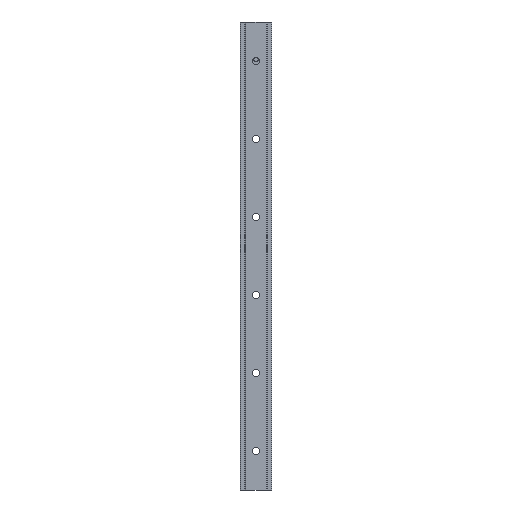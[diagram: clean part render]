
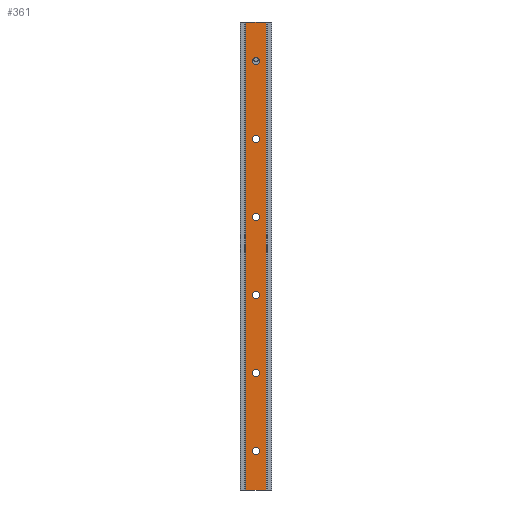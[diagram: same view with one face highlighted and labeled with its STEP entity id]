
A CAD part, front view. The second image highlights one B-rep face of the part: STEP entity #361.
In plain terms, the highlighted planar face has unit normal (0, -1, 0).
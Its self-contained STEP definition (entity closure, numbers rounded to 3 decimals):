
#2 = CARTESIAN_POINT ( 'NONE',  ( 0., 0., -222.5 ) ) ;
#115 = CARTESIAN_POINT ( 'NONE',  ( 0., 0., -127.5 ) ) ;
#171 = DIRECTION ( 'NONE',  ( 0., 0., 1. ) ) ;
#233 = ORIENTED_EDGE ( 'NONE', *, *, #469, .T. ) ;
#282 = EDGE_LOOP ( 'NONE', ( #2837, #12920 ) ) ;
#319 = DIRECTION ( 'NONE',  ( 0., 1., 0. ) ) ;
#361 = ADVANCED_FACE ( 'NONE', ( #6207, #7210, #8038, #8311, #12187, #9332, #1931 ), #11369, .T. ) ;
#452 = VERTEX_POINT ( 'NONE', #8994 ) ;
#464 = CARTESIAN_POINT ( 'NONE',  ( -6.6, 0., -300. ) ) ;
#469 = EDGE_CURVE ( 'NONE', #10451, #4219, #5871, .T. ) ;
#995 = AXIS2_PLACEMENT_3D ( 'NONE', #8893, #11899, #6720 ) ;
#1000 = CARTESIAN_POINT ( 'NONE',  ( 6.6, 0., -300. ) ) ;
#1052 = CARTESIAN_POINT ( 'NONE',  ( 0., 0., -225. ) ) ;
#1397 = CIRCLE ( 'NONE', #5950, 2.5 ) ;
#1418 = CIRCLE ( 'NONE', #3818, 2.5 ) ;
#1518 = AXIS2_PLACEMENT_3D ( 'NONE', #12615, #319, #5223 ) ;
#1831 = CARTESIAN_POINT ( 'NONE',  ( 0., 0., -175. ) ) ;
#1931 = FACE_BOUND ( 'NONE', #8433, .T. ) ;
#2015 = CARTESIAN_POINT ( 'NONE',  ( -6.6, 0., -300. ) ) ;
#2246 = ORIENTED_EDGE ( 'NONE', *, *, #5423, .T. ) ;
#2260 = CARTESIAN_POINT ( 'NONE',  ( 0., 0., -25. ) ) ;
#2290 = CIRCLE ( 'NONE', #6173, 2.5 ) ;
#2310 = CARTESIAN_POINT ( 'NONE',  ( -10.075, 0., -300. ) ) ;
#2355 = ORIENTED_EDGE ( 'NONE', *, *, #9985, .F. ) ;
#2376 = CARTESIAN_POINT ( 'NONE',  ( 0., 0., -122.5 ) ) ;
#2501 = VERTEX_POINT ( 'NONE', #8991 ) ;
#2521 = AXIS2_PLACEMENT_3D ( 'NONE', #5923, #8164, #13183 ) ;
#2576 = DIRECTION ( 'NONE',  ( 1., 0., 0. ) ) ;
#2604 = EDGE_CURVE ( 'NONE', #4219, #10451, #9145, .T. ) ;
#2650 = AXIS2_PLACEMENT_3D ( 'NONE', #10484, #5332, #11439 ) ;
#2809 = CARTESIAN_POINT ( 'NONE',  ( 0., 0., -172.5 ) ) ;
#2819 = LINE ( 'NONE', #11044, #3615 ) ;
#2837 = ORIENTED_EDGE ( 'NONE', *, *, #6537, .T. ) ;
#2997 = ORIENTED_EDGE ( 'NONE', *, *, #13402, .T. ) ;
#3021 = DIRECTION ( 'NONE',  ( 0., -1., 0. ) ) ;
#3076 = LINE ( 'NONE', #9256, #5638 ) ;
#3169 = CARTESIAN_POINT ( 'NONE',  ( 0., 0., -27.5 ) ) ;
#3185 = DIRECTION ( 'NONE',  ( 0., 0., -1. ) ) ;
#3215 = CIRCLE ( 'NONE', #9281, 2.5 ) ;
#3283 = AXIS2_PLACEMENT_3D ( 'NONE', #5203, #3021, #4947 ) ;
#3318 = VERTEX_POINT ( 'NONE', #5230 ) ;
#3452 = ORIENTED_EDGE ( 'NONE', *, *, #5673, .T. ) ;
#3615 = VECTOR ( 'NONE', #9887, 1000. ) ;
#3619 = CIRCLE ( 'NONE', #2521, 2.5 ) ;
#3710 = DIRECTION ( 'NONE',  ( 0., 0., 1. ) ) ;
#3818 = AXIS2_PLACEMENT_3D ( 'NONE', #4693, #10720, #6702 ) ;
#4219 = VERTEX_POINT ( 'NONE', #12122 ) ;
#4307 = EDGE_LOOP ( 'NONE', ( #233, #12078 ) ) ;
#4364 = EDGE_LOOP ( 'NONE', ( #2355, #10577, #5263, #10970 ) ) ;
#4576 = DIRECTION ( 'NONE',  ( 0., 1., 0. ) ) ;
#4693 = CARTESIAN_POINT ( 'NONE',  ( 0., 0., -175. ) ) ;
#4769 = CARTESIAN_POINT ( 'NONE',  ( -6.6, 0., 0. ) ) ;
#4943 = CARTESIAN_POINT ( 'NONE',  ( 0., 0., -75. ) ) ;
#4947 = DIRECTION ( 'NONE',  ( 0., 0., -1. ) ) ;
#4989 = VERTEX_POINT ( 'NONE', #2 ) ;
#5075 = EDGE_CURVE ( 'NONE', #13128, #10707, #1397, .T. ) ;
#5203 = CARTESIAN_POINT ( 'NONE',  ( -10.075, 0., -300. ) ) ;
#5223 = DIRECTION ( 'NONE',  ( 0., 0., 1. ) ) ;
#5230 = CARTESIAN_POINT ( 'NONE',  ( 0., 0., -272.5 ) ) ;
#5263 = ORIENTED_EDGE ( 'NONE', *, *, #5663, .T. ) ;
#5332 = DIRECTION ( 'NONE',  ( 0., 1., 0. ) ) ;
#5344 = DIRECTION ( 'NONE',  ( 0., 1., 0. ) ) ;
#5423 = EDGE_CURVE ( 'NONE', #12292, #10950, #12898, .T. ) ;
#5454 = AXIS2_PLACEMENT_3D ( 'NONE', #4943, #11299, #13131 ) ;
#5455 = DIRECTION ( 'NONE',  ( 0., 0., 1. ) ) ;
#5638 = VECTOR ( 'NONE', #7198, 1000. ) ;
#5663 = EDGE_CURVE ( 'NONE', #8869, #7232, #8816, .T. ) ;
#5673 = EDGE_CURVE ( 'NONE', #10950, #12292, #1418, .T. ) ;
#5871 = CIRCLE ( 'NONE', #5454, 2.5 ) ;
#5923 = CARTESIAN_POINT ( 'NONE',  ( 0., 0., -225. ) ) ;
#5950 = AXIS2_PLACEMENT_3D ( 'NONE', #6255, #10397, #11629 ) ;
#5975 = DIRECTION ( 'NONE',  ( 0., 1., 0. ) ) ;
#6018 = VERTEX_POINT ( 'NONE', #115 ) ;
#6048 = EDGE_LOOP ( 'NONE', ( #13388, #8431 ) ) ;
#6173 = AXIS2_PLACEMENT_3D ( 'NONE', #6837, #11060, #11003 ) ;
#6174 = VECTOR ( 'NONE', #3185, 1000. ) ;
#6176 = AXIS2_PLACEMENT_3D ( 'NONE', #1831, #5975, #6239 ) ;
#6207 = FACE_BOUND ( 'NONE', #4307, .T. ) ;
#6239 = DIRECTION ( 'NONE',  ( 0., 0., 1. ) ) ;
#6255 = CARTESIAN_POINT ( 'NONE',  ( 0., 0., -25. ) ) ;
#6313 = EDGE_CURVE ( 'NONE', #4989, #2501, #3619, .T. ) ;
#6450 = VERTEX_POINT ( 'NONE', #11693 ) ;
#6537 = EDGE_CURVE ( 'NONE', #8675, #6018, #12499, .T. ) ;
#6702 = DIRECTION ( 'NONE',  ( 0., 0., 1. ) ) ;
#6720 = DIRECTION ( 'NONE',  ( 0., 0., 1. ) ) ;
#6837 = CARTESIAN_POINT ( 'NONE',  ( 0., 0., -275. ) ) ;
#6933 = CARTESIAN_POINT ( 'NONE',  ( 0., 0., -125. ) ) ;
#7000 = CARTESIAN_POINT ( 'NONE',  ( 0., 0., -22.5 ) ) ;
#7126 = EDGE_CURVE ( 'NONE', #452, #3318, #2290, .T. ) ;
#7198 = DIRECTION ( 'NONE',  ( 1., 0., 0. ) ) ;
#7210 = FACE_BOUND ( 'NONE', #282, .T. ) ;
#7232 = VERTEX_POINT ( 'NONE', #1000 ) ;
#7361 = CIRCLE ( 'NONE', #1518, 2.5 ) ;
#7477 = AXIS2_PLACEMENT_3D ( 'NONE', #2260, #4576, #5455 ) ;
#7498 = EDGE_CURVE ( 'NONE', #7232, #6450, #2819, .T. ) ;
#7697 = CIRCLE ( 'NONE', #7477, 2.5 ) ;
#7906 = VECTOR ( 'NONE', #2576, 1000. ) ;
#8038 = FACE_BOUND ( 'NONE', #9613, .T. ) ;
#8164 = DIRECTION ( 'NONE',  ( 0., 1., 0. ) ) ;
#8204 = ORIENTED_EDGE ( 'NONE', *, *, #6313, .T. ) ;
#8311 = FACE_BOUND ( 'NONE', #9693, .T. ) ;
#8314 = ORIENTED_EDGE ( 'NONE', *, *, #12955, .T. ) ;
#8431 = ORIENTED_EDGE ( 'NONE', *, *, #7126, .T. ) ;
#8433 = EDGE_LOOP ( 'NONE', ( #12467, #2997 ) ) ;
#8675 = VERTEX_POINT ( 'NONE', #2376 ) ;
#8816 = LINE ( 'NONE', #2310, #7906 ) ;
#8869 = VERTEX_POINT ( 'NONE', #464 ) ;
#8893 = CARTESIAN_POINT ( 'NONE',  ( 0., 0., -125. ) ) ;
#8991 = CARTESIAN_POINT ( 'NONE',  ( 0., 0., -227.5 ) ) ;
#8994 = CARTESIAN_POINT ( 'NONE',  ( 0., 0., -277.5 ) ) ;
#9145 = CIRCLE ( 'NONE', #2650, 2.5 ) ;
#9256 = CARTESIAN_POINT ( 'NONE',  ( -10.075, 0., 0. ) ) ;
#9281 = AXIS2_PLACEMENT_3D ( 'NONE', #6933, #12174, #3710 ) ;
#9332 = FACE_OUTER_BOUND ( 'NONE', #4364, .T. ) ;
#9613 = EDGE_LOOP ( 'NONE', ( #2246, #3452 ) ) ;
#9693 = EDGE_LOOP ( 'NONE', ( #8204, #8314 ) ) ;
#9796 = EDGE_CURVE ( 'NONE', #6018, #8675, #3215, .T. ) ;
#9887 = DIRECTION ( 'NONE',  ( 0., 0., 1. ) ) ;
#9985 = EDGE_CURVE ( 'NONE', #10131, #6450, #3076, .T. ) ;
#10131 = VERTEX_POINT ( 'NONE', #4769 ) ;
#10362 = EDGE_CURVE ( 'NONE', #3318, #452, #7361, .T. ) ;
#10397 = DIRECTION ( 'NONE',  ( 0., 1., 0. ) ) ;
#10451 = VERTEX_POINT ( 'NONE', #10987 ) ;
#10484 = CARTESIAN_POINT ( 'NONE',  ( 0., 0., -75. ) ) ;
#10577 = ORIENTED_EDGE ( 'NONE', *, *, #12468, .T. ) ;
#10707 = VERTEX_POINT ( 'NONE', #3169 ) ;
#10720 = DIRECTION ( 'NONE',  ( 0., 1., 0. ) ) ;
#10950 = VERTEX_POINT ( 'NONE', #10967 ) ;
#10967 = CARTESIAN_POINT ( 'NONE',  ( 0., 0., -177.5 ) ) ;
#10970 = ORIENTED_EDGE ( 'NONE', *, *, #7498, .T. ) ;
#10987 = CARTESIAN_POINT ( 'NONE',  ( 0., 0., -72.5 ) ) ;
#11003 = DIRECTION ( 'NONE',  ( 0., 0., 1. ) ) ;
#11044 = CARTESIAN_POINT ( 'NONE',  ( 6.6, 0., 0. ) ) ;
#11060 = DIRECTION ( 'NONE',  ( 0., 1., 0. ) ) ;
#11299 = DIRECTION ( 'NONE',  ( 0., 1., 0. ) ) ;
#11369 = PLANE ( 'NONE',  #3283 ) ;
#11439 = DIRECTION ( 'NONE',  ( 0., 0., 1. ) ) ;
#11629 = DIRECTION ( 'NONE',  ( 0., 0., 1. ) ) ;
#11693 = CARTESIAN_POINT ( 'NONE',  ( 6.6, 0., 0. ) ) ;
#11899 = DIRECTION ( 'NONE',  ( 0., 1., 0. ) ) ;
#12078 = ORIENTED_EDGE ( 'NONE', *, *, #2604, .T. ) ;
#12122 = CARTESIAN_POINT ( 'NONE',  ( 0., 0., -77.5 ) ) ;
#12174 = DIRECTION ( 'NONE',  ( 0., 1., 0. ) ) ;
#12187 = FACE_BOUND ( 'NONE', #6048, .T. ) ;
#12258 = CIRCLE ( 'NONE', #12484, 2.5 ) ;
#12292 = VERTEX_POINT ( 'NONE', #2809 ) ;
#12467 = ORIENTED_EDGE ( 'NONE', *, *, #5075, .T. ) ;
#12468 = EDGE_CURVE ( 'NONE', #10131, #8869, #13359, .T. ) ;
#12484 = AXIS2_PLACEMENT_3D ( 'NONE', #1052, #5344, #171 ) ;
#12499 = CIRCLE ( 'NONE', #995, 2.5 ) ;
#12615 = CARTESIAN_POINT ( 'NONE',  ( 0., 0., -275. ) ) ;
#12898 = CIRCLE ( 'NONE', #6176, 2.5 ) ;
#12920 = ORIENTED_EDGE ( 'NONE', *, *, #9796, .T. ) ;
#12955 = EDGE_CURVE ( 'NONE', #2501, #4989, #12258, .T. ) ;
#13128 = VERTEX_POINT ( 'NONE', #7000 ) ;
#13131 = DIRECTION ( 'NONE',  ( 0., 0., 1. ) ) ;
#13183 = DIRECTION ( 'NONE',  ( 0., 0., 1. ) ) ;
#13359 = LINE ( 'NONE', #2015, #6174 ) ;
#13388 = ORIENTED_EDGE ( 'NONE', *, *, #10362, .T. ) ;
#13402 = EDGE_CURVE ( 'NONE', #10707, #13128, #7697, .T. ) ;
